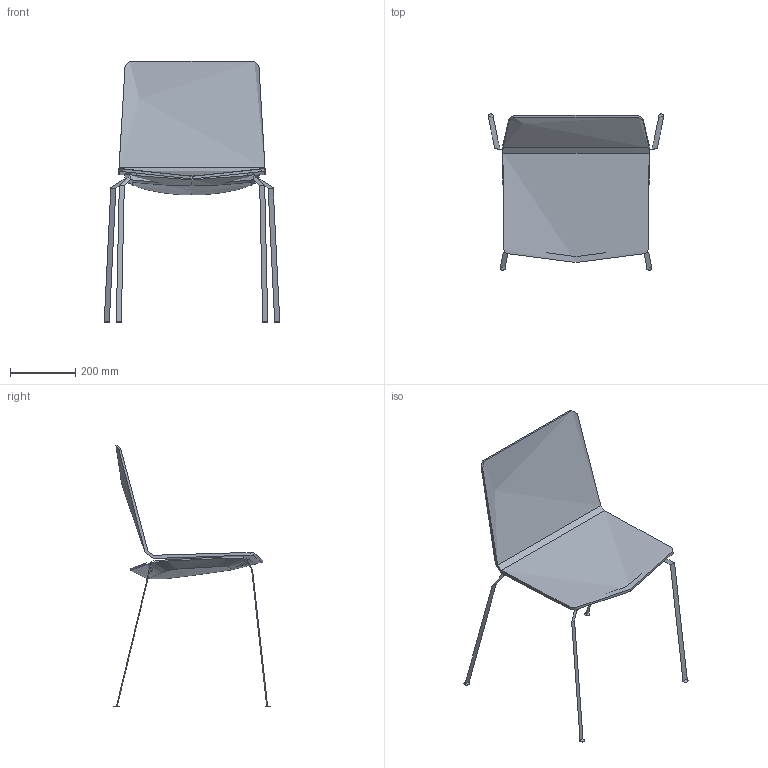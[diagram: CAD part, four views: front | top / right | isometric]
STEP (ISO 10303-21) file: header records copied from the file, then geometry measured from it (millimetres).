
FILE_DESCRIPTION(/* description */ (''),/* implementation_level */ '2;1');
FILE_NAME(/* name */ 'SKYFRE~2',/* time_stamp */ '2015-12-02T12:19:21+01:00',/* author */ (''),/* organization */ (''),/* preprocessor_version */ 'ST-DEVELOPER v15',/* originating_system */ '',/* authorisation */ '');
FILE_SCHEMA (('CONFIG_CONTROL_DESIGN'));
Length unit declared in the file: millimetre
Products named in the file (1): Document
Bounding box: 540.02 x 481.26 x 803.23 mm (x, y, z)
Volume: 3092149.8 mm3; surface area: 1040172 mm2
Topology: 5 solids, 16 shells, 109 faces, 253 edges, 160 vertices
Faces by surface type: bspline 91, plane 18
Entity records: 8420 total; most frequent: CARTESIAN_POINT 6914, ORIENTED_EDGE 454, EDGE_CURVE 250, VERTEX_POINT 160, ADVANCED_FACE 109, FACE_OUTER_BOUND 109, EDGE_LOOP 109, B_SPLINE_CURVE_WITH_KNOTS 96
